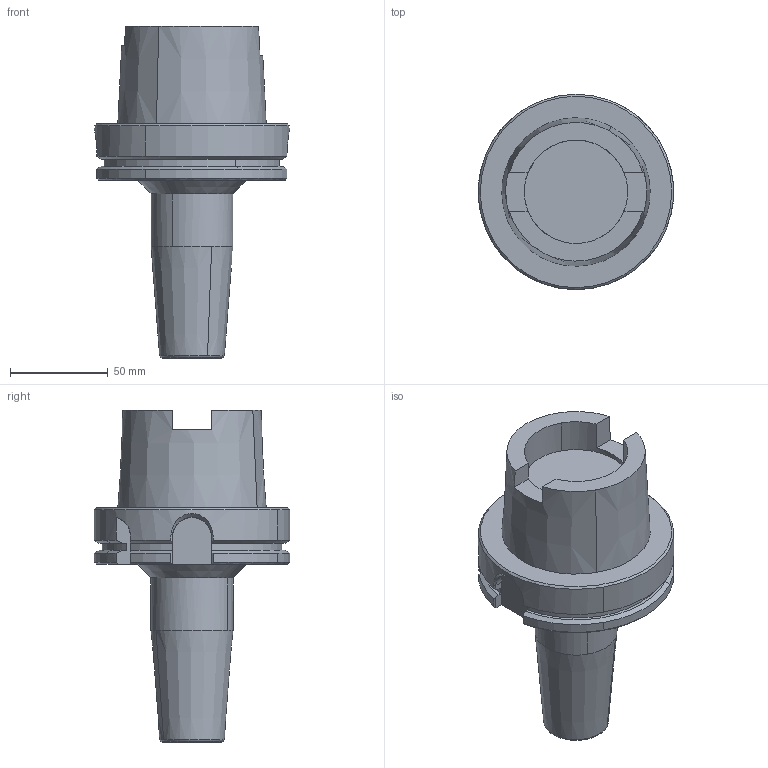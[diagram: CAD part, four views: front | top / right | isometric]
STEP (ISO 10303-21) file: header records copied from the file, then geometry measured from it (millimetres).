
FILE_DESCRIPTION(('CATIA V5 STEP','CAx-IF Rec.Pracs.--- Model Styling and Organization---1.2---2011-12-15'),'2;1');
FILE_NAME('N:\data\isr\design\special1\users\ALLA_K\STP LIGHT\ADAPTORS\4510287 HSK A 100 SRKIN 20X120\HSK A100 SRKIN 20X120.stp','2016-08-09T08:58:20+00:00',('none'),('none'),'CATIA Version 5 Release 21 SP 5 (IN-10)','CATIA V5 STEP AP214','none');
FILE_SCHEMA(('AUTOMOTIVE_DESIGN { 1 0 10303 214 1 1 1 1 }'));
Length unit declared in the file: millimetre
Products named in the file (1): HSK A100 SRKIN 20X120
Bounding box: 100 x 100 x 170 mm (x, y, z)
Volume: 499744.2 mm3; surface area: 49711.8 mm2
Topology: 1 solids, 1 shells, 89 faces, 247 edges, 162 vertices
Faces by surface type: plane 37, cone 27, cylinder 19, bspline 2, extrusion 2, torus 2
Entity records: 3155 total; most frequent: CARTESIAN_POINT 1006, ORIENTED_EDGE 494, DIRECTION 299, EDGE_CURVE 247, VERTEX_POINT 162, AXIS2_PLACEMENT_3D 135, VECTOR 105, LINE 103
